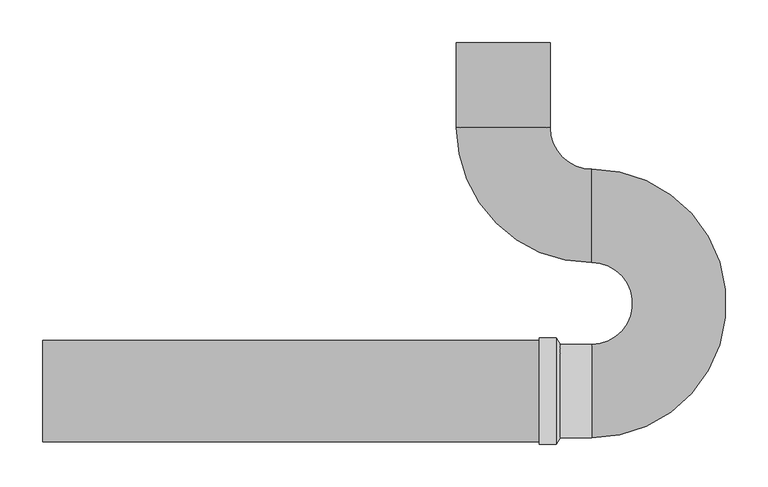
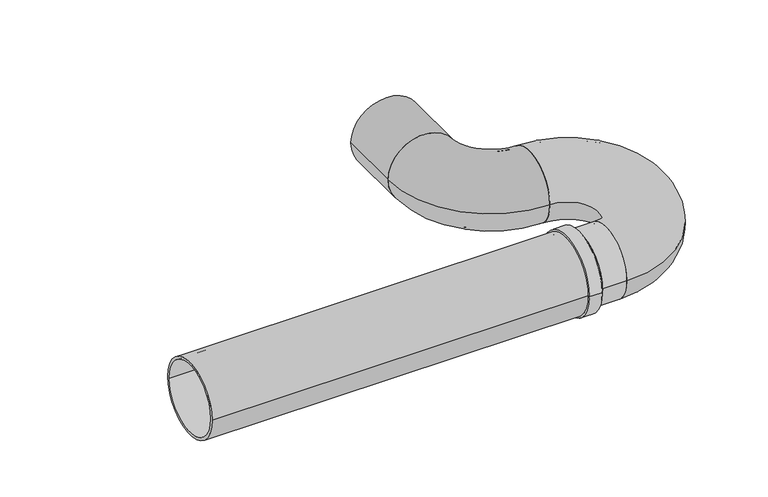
"""IFC4 building model written with IfcOpenShell, lengths in millimetres: pipe fitting geometry, Superdrain Trap : Superdrain Trap."""

from ifc_helpers import new_model, si_unit, point, frame, origin, origin_2d, place, context, project, spatial, polyline, circle_curve, ellipse_curve, trimmed, segment, composite_curve, outline, extrude, source, transform, mapped, element, save
from ifc_brep_helpers import plane_surface, cylinder_surface, revolved_surface, advanced_brep


def pipe_fitting_c8fc06a6(model_context):
    return source(origin(), model_context, "Body", "SolidModel", [
        advanced_brep(
        [(104.0, 55.0, 0.0), (104.0, -55.0, 0.0), (67.0, -55.0, 0.0), (67.0, 55.0, 0.0), (104.0, 52.0, 0.0), (104.0, -52.0, 0.0), (67.0, 52.0, 0.0), (67.0, -52.0, 0.0), (62.0, 59.5, 0.0), (62.0, -59.5, 0.0), (42.0, 59.5, 0.0), (42.0, -59.5, 0.0), (42.0, 62.5, 0.0), (42.0, -62.5, 0.0), (62.0, 62.5, 0.0), (62.0, -62.5, 0.0)],
        [
            (0, 1, circle_curve(frame((104.0, 0.0, 0.0), z_axis=(-1.0, 0.0, 0.0), x_axis=(0.0, -1.0, 0.0)), 55.0)),
            (1, 2),
            (2, 3, circle_curve(frame((67.0, 0.0, 0.0), z_axis=(1.0, 0.0, 0.0), x_axis=(0.0, -1.0, 0.0)), 55.0)),
            (3, 0),
            (1, 0, circle_curve(frame((104.0, 0.0, 0.0), z_axis=(-1.0, 0.0, 0.0), x_axis=(0.0, -1.0, 0.0)), 55.0)),
            (3, 2, circle_curve(frame((67.0, 0.0, 0.0), z_axis=(1.0, 0.0, 0.0), x_axis=(0.0, -1.0, 0.0)), 55.0)),
            (4, 5, circle_curve(frame((104.0, 0.0, 0.0), z_axis=(-1.0, 0.0, 0.0), x_axis=(0.0, -1.0, 0.0)), 52.0)),
            (5, 1),
            (0, 4),
            (5, 4, circle_curve(frame((104.0, 0.0, 0.0), z_axis=(-1.0, 0.0, 0.0), x_axis=(0.0, -1.0, 0.0)), 52.0)),
            (6, 7, circle_curve(frame((67.0, 0.0, 0.0), z_axis=(-1.0, 0.0, 0.0), x_axis=(0.0, -1.0, 0.0)), 52.0)),
            (7, 5),
            (4, 6),
            (7, 6, circle_curve(frame((67.0, 0.0, 0.0), z_axis=(-1.0, 0.0, 0.0), x_axis=(0.0, -1.0, 0.0)), 52.0)),
            (8, 9, circle_curve(frame((62.0, 0.0, 0.0), z_axis=(-1.0, 0.0, 0.0), x_axis=(0.0, -1.0, 0.0)), 59.5)),
            (9, 7),
            (6, 8),
            (9, 8, circle_curve(frame((62.0, 0.0, 0.0), z_axis=(-1.0, 0.0, 0.0), x_axis=(0.0, -1.0, 0.0)), 59.5)),
            (10, 11, circle_curve(frame((42.0, 0.0, 0.0), z_axis=(-1.0, 0.0, 0.0), x_axis=(0.0, -1.0, 0.0)), 59.5)),
            (11, 9),
            (8, 10),
            (11, 10, circle_curve(frame((42.0, 0.0, 0.0), z_axis=(-1.0, 0.0, 0.0), x_axis=(0.0, -1.0, 0.0)), 59.5)),
            (12, 13, circle_curve(frame((42.0, 0.0, 0.0), z_axis=(-1.0, 0.0, 0.0), x_axis=(0.0, -1.0, 0.0)), 62.5)),
            (13, 11),
            (10, 12),
            (13, 12, circle_curve(frame((42.0, 0.0, 0.0), z_axis=(-1.0, 0.0, 0.0), x_axis=(0.0, -1.0, 0.0)), 62.5)),
            (14, 15, circle_curve(frame((62.0, 0.0, 0.0), z_axis=(-1.0, 0.0, 0.0), x_axis=(0.0, -1.0, 0.0)), 62.5)),
            (15, 13),
            (12, 14),
            (15, 14, circle_curve(frame((62.0, 0.0, 0.0), z_axis=(-1.0, 0.0, 0.0), x_axis=(0.0, -1.0, 0.0)), 62.5)),
            (2, 15),
            (14, 3),
        ],
        [
            cylinder_surface(frame((139.0, 0.0, 0.0), z_axis=(1.0, 0.0, 0.0), x_axis=(0.0, -1.0, 0.0)), 55.0),
            plane_surface(frame((104.0, 0.0, 0.0), z_axis=(1.0, 0.0, 0.0), x_axis=(0.0, -1.0, 0.0))),
            revolved_surface(polyline([(104.0, -52.0, 0.0), (67.0, -52.0, 0.0)]), (139.0, 0.0, 0.0), (1.0, 0.0, 0.0)),
            revolved_surface(polyline([(67.0, -52.0, 0.0), (62.0, -59.5, 0.0)]), (139.0, 0.0, 0.0), (1.0, 0.0, 0.0)),
            revolved_surface(polyline([(62.0, -59.5, 0.0), (42.0, -59.5, 0.0)]), (139.0, 0.0, 0.0), (1.0, 0.0, 0.0)),
            plane_surface(frame((42.0, 0.0, 0.0), z_axis=(-1.0, 0.0, 0.0), x_axis=(0.0, -1.0, 0.0))),
            cylinder_surface(frame((139.0, 0.0, 0.0), z_axis=(1.0, 0.0, 0.0), x_axis=(0.0, -1.0, 0.0)), 62.5),
            revolved_surface(polyline([(62.0, -62.5, 0.0), (67.0, -55.0, 0.0)]), (139.0, 0.0, 0.0), (1.0, 0.0, 0.0)),
        ],
        [
            (0, [[1, 2, 3, 4]]),
            (0, [[5, -4, 6, -2]]),
            (1, [[7, 8, -1, 9]]),
            (1, [[10, -9, -5, -8]]),
            (2, [[11, 12, -7, 13]]),
            (2, [[14, -13, -10, -12]]),
            (3, [[15, 16, -11, 17]]),
            (3, [[18, -17, -14, -16]]),
            (4, [[19, 20, -15, 21]]),
            (4, [[22, -21, -18, -20]]),
            (5, [[23, 24, -19, 25]]),
            (5, [[26, -25, -22, -24]]),
            (6, [[27, 28, -23, 29]]),
            (6, [[30, -29, -26, -28]]),
            (7, [[-3, 31, -27, 32]]),
            (7, [[-6, -32, -30, -31]]),
        ],
    ),
        advanced_brep(
        [(104.0, 151.0, 0.0), (104.0, 261.0, 0.0), (104.0, 154.0, 0.0), (104.0, 258.0, 0.0), (104.0, 55.0, 0.0), (104.0, -55.0, 0.0), (104.0, 52.0, 0.0), (104.0, -52.0, 0.0)],
        [
            (0, 1, circle_curve(frame((104.0, 206.0, 0.0), z_axis=(-1.0, 0.0, 0.0), x_axis=(0.0, 1.0, 0.0)), 55.0)),
            (1, 0, circle_curve(frame((104.0, 206.0, 0.0), z_axis=(-1.0, 0.0, 0.0), x_axis=(0.0, 1.0, 0.0)), 55.0)),
            (2, 3, circle_curve(frame((104.0, 206.0, 0.0), z_axis=(1.0, 0.0, 0.0), x_axis=(0.0, 1.0, 0.0)), 52.0)),
            (3, 2, circle_curve(frame((104.0, 206.0, 0.0), z_axis=(1.0, 0.0, 0.0), x_axis=(0.0, 1.0, 0.0)), 52.0)),
            (4, 5, circle_curve(frame((104.0, 0.0, 0.0), z_axis=(-1.0, 0.0, 0.0), x_axis=(0.0, -1.0, 0.0)), 55.0)),
            (5, 4, circle_curve(frame((104.0, 0.0, 0.0), z_axis=(-1.0, 0.0, 0.0), x_axis=(0.0, -1.0, 0.0)), 55.0)),
            (6, 7, circle_curve(frame((104.0, 0.0, 0.0), z_axis=(1.0, 0.0, 0.0), x_axis=(0.0, -1.0, 0.0)), 52.0)),
            (7, 6, circle_curve(frame((104.0, 0.0, 0.0), z_axis=(1.0, 0.0, 0.0), x_axis=(0.0, -1.0, 0.0)), 52.0)),
            (7, 3, circle_curve(frame((104.0, 103.0, 0.0), z_axis=(0.0, 0.0, 1.0), x_axis=(0.0, 1.0, 0.0)), 155.0)),
            (2, 6, circle_curve(frame((104.0, 103.0, 0.0), z_axis=(0.0, 0.0, -1.0), x_axis=(0.0, 1.0, 0.0)), 51.0)),
            (5, 1, circle_curve(frame((104.0, 103.0, 0.0), z_axis=(0.0, 0.0, 1.0), x_axis=(0.0, 1.0, 0.0)), 158.0)),
            (0, 4, circle_curve(frame((104.0, 103.0, 0.0), z_axis=(0.0, 0.0, -1.0), x_axis=(0.0, 1.0, 0.0)), 48.0)),
        ],
        [
            plane_surface(frame((104.0, 206.0, 0.0), z_axis=(-1.0, 0.0, 0.0), x_axis=(0.0, 0.0, 1.0))),
            plane_surface(frame((104.0, 0.0, 0.0), z_axis=(-1.0, 0.0, 0.0), x_axis=(0.0, 0.0, 1.0))),
            revolved_surface(trimmed(ellipse_curve(frame((104.0, 206.0, 0.0), z_axis=(1.0, 0.0, 0.0), x_axis=(0.0, 1.0, 0.0)), 52.0, 52.0), [point((104.0, 154.0, 0.0))], [point((104.0, 258.0, 0.0))], True, "CARTESIAN"), (104.0, 103.0, 0.0), (0.0, 0.0, -1.0)),
            revolved_surface(trimmed(ellipse_curve(frame((104.0, 206.0, 0.0), z_axis=(1.0, 0.0, 0.0), x_axis=(0.0, 1.0, 0.0)), 52.0, 52.0), [point((104.0, 258.0, 0.0))], [point((104.0, 154.0, 0.0))], True, "CARTESIAN"), (104.0, 103.0, 0.0), (0.0, 0.0, -1.0)),
            revolved_surface(trimmed(ellipse_curve(frame((104.0, 206.0, 0.0), z_axis=(-1.0, 0.0, 0.0), x_axis=(0.0, 1.0, 0.0)), 55.0, 55.0), [point((104.0, 151.0, 0.0))], [point((104.0, 261.0, 0.0))], True, "CARTESIAN"), (104.0, 103.0, 0.0), (0.0, 0.0, -1.0)),
            revolved_surface(trimmed(ellipse_curve(frame((104.0, 206.0, 0.0), z_axis=(-1.0, 0.0, 0.0), x_axis=(0.0, 1.0, 0.0)), 55.0, 55.0), [point((104.0, 261.0, 0.0))], [point((104.0, 151.0, 0.0))], True, "CARTESIAN"), (104.0, 103.0, 0.0), (0.0, 0.0, -1.0)),
        ],
        [
            (0, [[1, 2], [3, 4]]),
            (1, [[5, 6], [7, 8]]),
            (2, [[9, -3, 10, -8]]),
            (3, [[-10, -4, -9, -7]]),
            (4, [[11, -1, 12, -6]]),
            (5, [[-12, -2, -11, -5]]),
        ],
    ),
        advanced_brep(
        [(-55.0, 310.0, 0.0), (55.0, 310.0, 0.0), (-52.0, 310.0, 0.0), (52.0, 310.0, 0.0), (104.0, 151.0, 0.0), (104.0, 261.0, 0.0), (104.0, 154.0, 0.0), (104.0, 258.0, 0.0)],
        [
            (0, 1, circle_curve(frame((0.0, 310.0, 0.0), z_axis=(0.0, 1.0, 0.0), x_axis=(1.0, 0.0, 0.0)), 55.0)),
            (1, 0, circle_curve(frame((0.0, 310.0, 0.0), z_axis=(0.0, 1.0, 0.0), x_axis=(1.0, 0.0, 0.0)), 55.0)),
            (2, 3, circle_curve(frame((0.0, 310.0, 0.0), z_axis=(0.0, -1.0, 0.0), x_axis=(1.0, 0.0, 0.0)), 52.0)),
            (3, 2, circle_curve(frame((0.0, 310.0, 0.0), z_axis=(0.0, -1.0, 0.0), x_axis=(1.0, 0.0, 0.0)), 52.0)),
            (4, 5, circle_curve(frame((104.0, 206.0, 0.0), z_axis=(1.0, 0.0, 0.0), x_axis=(0.0, 1.0, 0.0)), 55.0)),
            (5, 4, circle_curve(frame((104.0, 206.0, 0.0), z_axis=(1.0, 0.0, 0.0), x_axis=(0.0, 1.0, 0.0)), 55.0)),
            (6, 7, circle_curve(frame((104.0, 206.0, 0.0), z_axis=(-1.0, 0.0, 0.0), x_axis=(0.0, 1.0, 0.0)), 52.0)),
            (7, 6, circle_curve(frame((104.0, 206.0, 0.0), z_axis=(-1.0, 0.0, 0.0), x_axis=(0.0, 1.0, 0.0)), 52.0)),
            (5, 1, circle_curve(frame((104.0, 310.0, 0.0), z_axis=(0.0, 0.0, -1.0), x_axis=(-1.0, 0.0, 0.0)), 49.0)),
            (0, 4, circle_curve(frame((104.0, 310.0, 0.0), z_axis=(0.0, 0.0, 1.0), x_axis=(-1.0, 0.0, 0.0)), 159.0)),
            (7, 3, circle_curve(frame((104.0, 310.0, 0.0), z_axis=(0.0, 0.0, -1.0), x_axis=(-1.0, 0.0, 0.0)), 52.0)),
            (2, 6, circle_curve(frame((104.0, 310.0, 0.0), z_axis=(0.0, 0.0, 1.0), x_axis=(-1.0, 0.0, 0.0)), 156.0)),
        ],
        [
            plane_surface(frame((0.0, 310.0, 0.0), z_axis=(0.0, 1.0, 0.0), x_axis=(0.0, 0.0, 1.0))),
            plane_surface(frame((104.0, 206.0, 0.0), z_axis=(1.0, 0.0, 0.0), x_axis=(0.0, 0.0, 1.0))),
            revolved_surface(trimmed(ellipse_curve(frame((0.0, 310.0, 0.0), z_axis=(0.0, 1.0, 0.0), x_axis=(1.0, 0.0, 0.0)), 55.0, 55.0), [point((-55.0, 310.0, 0.0))], [point((55.0, 310.0, 0.0))], True, "CARTESIAN"), (104.0, 310.0, 0.0), (0.0, 0.0, 1.0)),
            revolved_surface(trimmed(ellipse_curve(frame((0.0, 310.0, 0.0), z_axis=(0.0, 1.0, 0.0), x_axis=(1.0, 0.0, 0.0)), 55.0, 55.0), [point((55.0, 310.0, 0.0))], [point((-55.0, 310.0, 0.0))], True, "CARTESIAN"), (104.0, 310.0, 0.0), (0.0, 0.0, 1.0)),
            revolved_surface(trimmed(ellipse_curve(frame((0.0, 310.0, 0.0), z_axis=(0.0, -1.0, 0.0), x_axis=(1.0, 0.0, 0.0)), 52.0, 52.0), [point((-52.0, 310.0, 0.0))], [point((52.0, 310.0, 0.0))], True, "CARTESIAN"), (104.0, 310.0, 0.0), (0.0, 0.0, 1.0)),
            revolved_surface(trimmed(ellipse_curve(frame((0.0, 310.0, 0.0), z_axis=(0.0, -1.0, 0.0), x_axis=(1.0, 0.0, 0.0)), 52.0, 52.0), [point((52.0, 310.0, 0.0))], [point((-52.0, 310.0, 0.0))], True, "CARTESIAN"), (104.0, 310.0, 0.0), (0.0, 0.0, 1.0)),
        ],
        [
            (0, [[1, 2], [3, 4]]),
            (1, [[5, 6], [7, 8]]),
            (2, [[9, -1, 10, -6]]),
            (3, [[-10, -2, -9, -5]]),
            (4, [[11, -3, 12, -8]]),
            (5, [[-12, -4, -11, -7]]),
        ],
    ),
        extrude(outline(composite_curve([segment(trimmed(circle_curve(origin_2d(), 59.5), [point((59.5, 0.0))], [point((-59.5, 0.0))], False, "CARTESIAN"), True, "CONTINUOUS"), segment(trimmed(circle_curve(origin_2d(), 59.5), [point((-59.5, 0.0))], [point((59.5, 0.0))], False, "CARTESIAN"), True, "CONTINUOUS")], self_intersect=False), holes=[composite_curve([segment(trimmed(circle_curve(origin_2d(), 55.0), [point((55.0, 0.0))], [point((-55.0, 0.0))], True, "CARTESIAN"), True, "CONTINUOUS"), segment(trimmed(circle_curve(origin_2d(), 55.0), [point((-55.0, 0.0))], [point((55.0, 0.0))], True, "CARTESIAN"), True, "CONTINUOUS")], self_intersect=False)]), frame((-541.5, 0.0, 0.0), z_axis=(1.0, 0.0, 0.0), x_axis=(0.0, 1.0, 0.0)), (0.0, 0.0, 1.0), 583.5),
        extrude(outline(composite_curve([segment(trimmed(circle_curve(origin_2d(), 55.0), [point((0.0, 55.0))], [point((0.0, -55.0))], False, "CARTESIAN"), True, "CONTINUOUS"), segment(trimmed(circle_curve(origin_2d(), 55.0), [point((0.0, -55.0))], [point((0.0, 55.0))], False, "CARTESIAN"), True, "CONTINUOUS")], self_intersect=False), holes=[composite_curve([segment(trimmed(circle_curve(origin_2d(), 52.0), [point((0.0, 52.0))], [point((0.0, -52.0))], True, "CARTESIAN"), True, "CONTINUOUS"), segment(trimmed(circle_curve(origin_2d(), 52.0), [point((0.0, -52.0))], [point((0.0, 52.0))], True, "CARTESIAN"), True, "CONTINUOUS")], self_intersect=False)]), frame((0.0, 310.0, 0.0), z_axis=(0.0, 1.0, 0.0), x_axis=(0.0, 0.0, 1.0)), (0.0, 0.0, 1.0), 100.0),
    ])


if __name__ == "__main__":
    model = new_model("IFC4")
    model_context = context("Model", 3, world=origin())
    ifc_project = project(units=[si_unit("LENGTHUNIT", "METRE", prefix="MILLI")], contexts=[model_context])
    site = spatial("IfcSite", under=ifc_project)
    building = spatial("IfcBuilding", under=site)
    placement = place(None, origin())
    pipe_fitting_shape = pipe_fitting_c8fc06a6(model_context)
    element("IfcPipeFitting", 1, ObjectType="Superdrain Trap : Superdrain Trap", at=placement, inside=building, context=model_context, shape_type="MappedRepresentation", body=[
        mapped(pipe_fitting_shape, transform((0.0, 0.0, 0.0), x_axis=(1.0, 0.0, 0.0), y_axis=(0.0, 1.0, 0.0), z_axis=(0.0, 0.0, 1.0))),
    ])
    save(model, "model.ifc")
